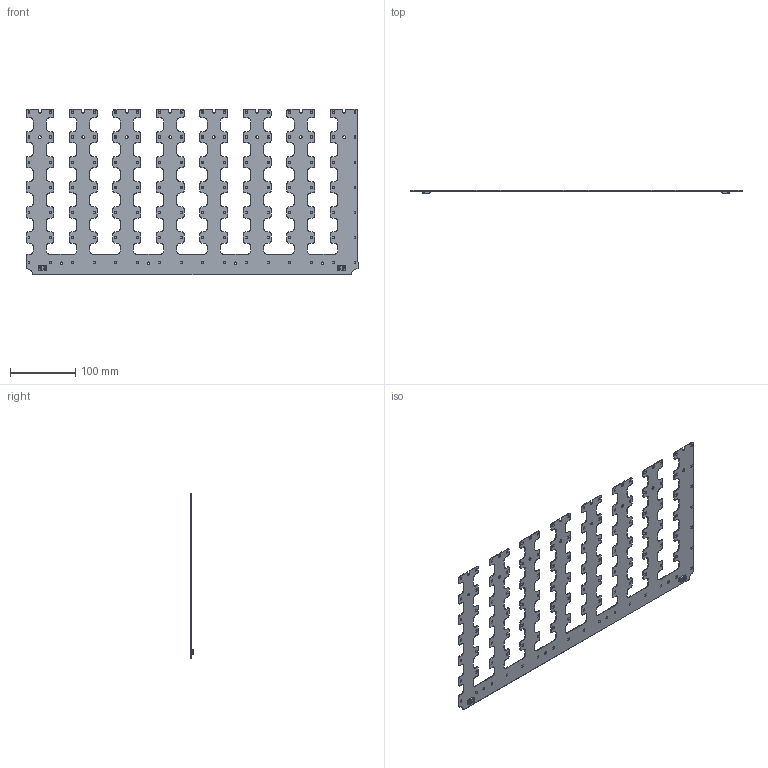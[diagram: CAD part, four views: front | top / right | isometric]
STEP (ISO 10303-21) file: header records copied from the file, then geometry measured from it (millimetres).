
FILE_DESCRIPTION(/* description */ ('Unknown'),/* implementation_level */ '2;1');
FILE_NAME(/* name */ 'RecLED 510x255mm 2500lm 42V sh-000 2021-09-10',/* time_stamp */ '2021-09-10T15:11:53+02:00',/* author */ ('Unknown'),/* organization */ ('Unknown'),/* preprocessor_version */ 'ST-DEVELOPER v16.7',/* originating_system */ 'Solid Edge',/* authorisation */ 'Unknown');
FILE_SCHEMA (('AUTOMOTIVE_DESIGN {1 0 10303 214 3 1 1}'));
Products named in the file (5): RecLED 510x255mm 2500lm 42V sh-000 2021-09-10; PCB RecLED 510x255mm 2021-09-10; LED 2835; 4010-411-12610 Sh-000 2016-11-03; 4010-411-12610 Sh-000 2016-11-03_odb
Assembly tree (115 placements, depth 2):
  RecLED 510x255mm 2500lm 42V sh-000 2021-09-10
    PCB RecLED 510x255mm 2021-09-10
    LED 2835  x112
    4010-411-12610 Sh-000 2016-11-03
    4010-411-12610 Sh-000 2016-11-03_odb
Bounding box: 510 x 4.5 x 254.5 mm (x, y, z)
Volume: 72597 mm3; surface area: 153039.8 mm2
Topology: 115 solids, 115 shells, 3493 faces, 9127 edges, 5978 vertices
Faces by surface type: plane 2620, cylinder 605, bspline 174, cone 52, torus 22, sphere 20
Full cylindrical faces by diameter (mm): 4.3 x12
Entity records: 67892 total; most frequent: CARTESIAN_POINT 15893, ORIENTED_EDGE 8806, DIRECTION 8015, EDGE_CURVE 4403, VERTEX_POINT 2848, AXIS2_PLACEMENT_3D 2722, LINE 2571, VECTOR 2571
